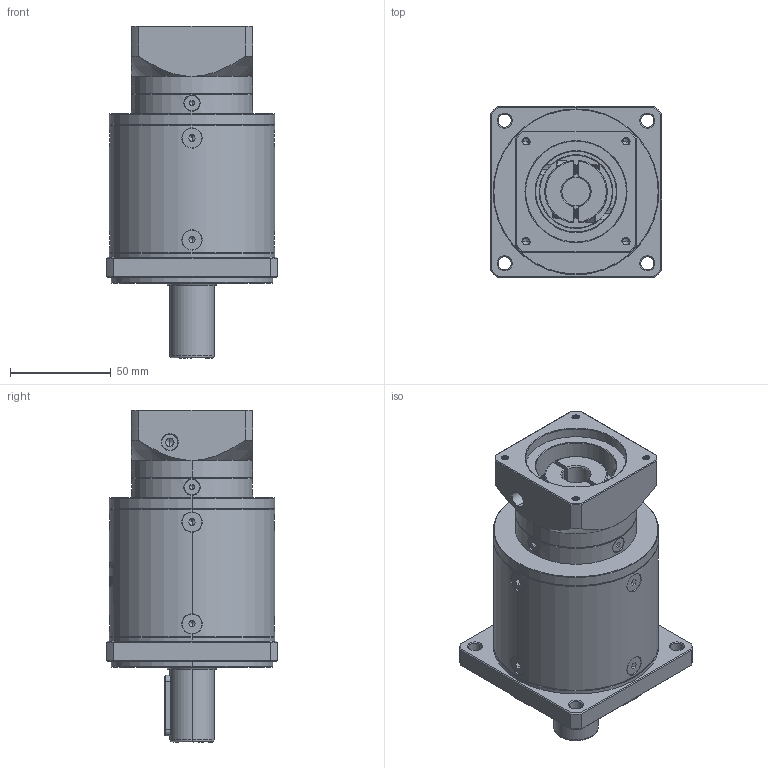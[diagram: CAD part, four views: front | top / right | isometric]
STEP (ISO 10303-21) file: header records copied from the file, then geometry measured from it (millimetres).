
FILE_DESCRIPTION (( 'STEP AP214' ), '1' );
FILE_NAME ('ZF80-D22-L3-14-50-70-M4.step', '2022-05-08T09:27:48', ( '' ), ( 'Microsoft' ), 'SwSTEP 2.0', 'SolidWorks 2016', '' );
FILE_SCHEMA (( 'AUTOMOTIVE_DESIGN' ));
Length unit declared in the file: millimetre
Products named in the file (1): ZF80-D22-L3-14-50-70-M4
Bounding box: 85 x 85 x 164.5 mm (x, y, z)
Volume: 574451.9 mm3; surface area: 72843 mm2
Topology: 18 solids, 18 shells, 2009 faces, 5257 edges, 3344 vertices
Faces by surface type: plane 948, cylinder 393, bspline 328, cone 326, torus 14
Entity records: 105778 total; most frequent: CARTESIAN_POINT 37662, ORIENTED_EDGE 10438, DIRECTION 8342, EDGE_CURVE 5219, VERTEX_POINT 3344, LINE 2806, VECTOR 2806, AXIS2_PLACEMENT_3D 2768
